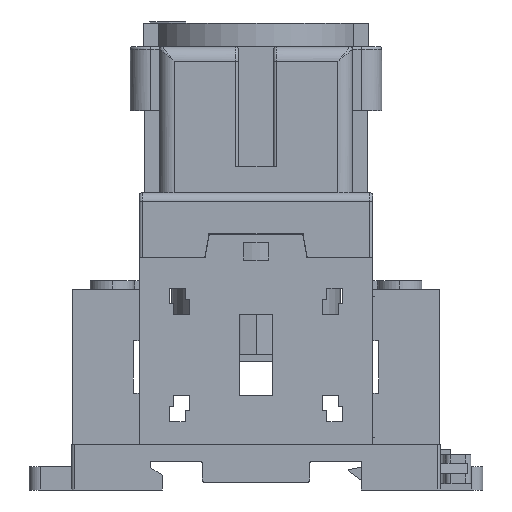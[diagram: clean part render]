
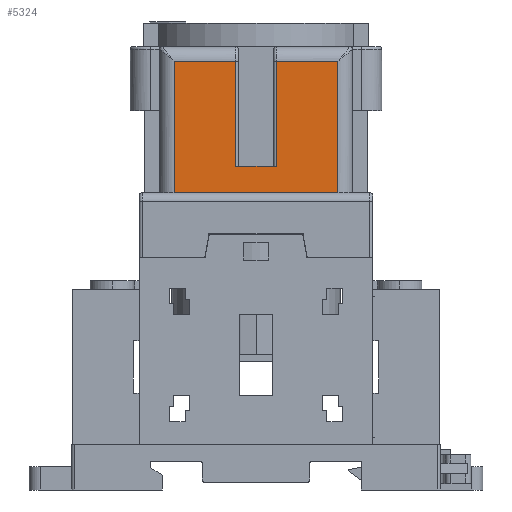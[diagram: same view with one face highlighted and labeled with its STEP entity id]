
A CAD part, left-side view. The second image highlights one B-rep face of the part: STEP entity #5324.
In plain terms, the highlighted planar face has unit normal (-1, 0, 0).
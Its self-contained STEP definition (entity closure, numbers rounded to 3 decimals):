
#57=DIRECTION('',(0.,-1.,0.));
#58=VECTOR('',#57,28.);
#59=CARTESIAN_POINT('',(-45.,14.,0.));
#60=LINE('',#59,#58);
#287=DIRECTION('',(0.,1.,0.));
#288=VECTOR('',#287,7.);
#289=CARTESIAN_POINT('',(-45.,-3.5,4.5));
#290=LINE('',#289,#288);
#381=CARTESIAN_POINT('',(-45.,14.,22.5));
#383=DIRECTION('',(0.,0.,-1.));
#384=VECTOR('',#383,22.5);
#385=CARTESIAN_POINT('',(-45.,14.,22.5));
#386=LINE('',#385,#384);
#387=DIRECTION('',(0.,-1.,0.));
#388=VECTOR('',#387,10.5);
#389=CARTESIAN_POINT('',(-45.,14.,22.5));
#390=LINE('',#389,#388);
#391=DIRECTION('',(0.,0.,-1.));
#392=VECTOR('',#391,18.);
#393=CARTESIAN_POINT('',(-45.,3.5,22.5));
#394=LINE('',#393,#392);
#395=DIRECTION('',(0.,0.,1.));
#396=VECTOR('',#395,18.);
#397=CARTESIAN_POINT('',(-45.,-3.5,4.5));
#398=LINE('',#397,#396);
#399=DIRECTION('',(0.,-1.,0.));
#400=VECTOR('',#399,10.5);
#401=CARTESIAN_POINT('',(-45.,-3.5,22.5));
#402=LINE('',#401,#400);
#403=DIRECTION('',(0.,0.,-1.));
#404=VECTOR('',#403,22.5);
#405=CARTESIAN_POINT('',(-45.,-14.,22.5));
#406=LINE('',#405,#404);
#3922=CARTESIAN_POINT('',(-45.,14.,0.));
#3924=VERTEX_POINT('',#3922);
#3927=CARTESIAN_POINT('',(-45.,-14.,0.));
#3929=VERTEX_POINT('',#3927);
#3950=CARTESIAN_POINT('',(-45.,3.5,22.5));
#3951=CARTESIAN_POINT('',(-45.,3.5,4.5));
#3952=VERTEX_POINT('',#3950);
#3953=VERTEX_POINT('',#3951);
#3964=CARTESIAN_POINT('',(-45.,-3.5,4.5));
#3966=VERTEX_POINT('',#3964);
#4027=VERTEX_POINT('',#381);
#4108=CARTESIAN_POINT('',(-45.,-14.,
22.5));
#4109=VERTEX_POINT('',#4108);
#4112=CARTESIAN_POINT('',(-45.,-3.5,22.5));
#4113=VERTEX_POINT('',#4112);
#5306=CARTESIAN_POINT('',(-45.,16.5,0.));
#5307=DIRECTION('',(-1.,0.,0.));
#5308=DIRECTION('',(0.,-1.,0.));
#5309=AXIS2_PLACEMENT_3D('',#5306,#5307,#5308);
#5310=PLANE('',#5309);
#5311=ORIENTED_EDGE('',*,*,#5298,.F.);
#5312=ORIENTED_EDGE('',*,*,#5230,.T.);
#5314=ORIENTED_EDGE('',*,*,#5313,.T.);
#5315=ORIENTED_EDGE('',*,*,#5155,.F.);
#5317=ORIENTED_EDGE('',*,*,#5316,.T.);
#5318=ORIENTED_EDGE('',*,*,#5224,.T.);
#5320=ORIENTED_EDGE('',*,*,#5319,.T.);
#5321=ORIENTED_EDGE('',*,*,#4853,.F.);
#5322=EDGE_LOOP('',(#5311,#5312,#5314,#5315,#5317,#5318,#5320,#5321));
#5323=FACE_OUTER_BOUND('',#5322,.F.);
#5324=ADVANCED_FACE('',(#5323),#5310,.T.);
#4853=EDGE_CURVE('',#3924,#3929,#60,.T.);
#5155=EDGE_CURVE('',#3966,#3953,#290,.T.);
#5224=EDGE_CURVE('',#4113,#4109,#402,.T.);
#5230=EDGE_CURVE('',#4027,#3952,#390,.T.);
#5298=EDGE_CURVE('',#4027,#3924,#386,.T.);
#5313=EDGE_CURVE('',#3952,#3953,#394,.T.);
#5316=EDGE_CURVE('',#3966,#4113,#398,.T.);
#5319=EDGE_CURVE('',#4109,#3929,#406,.T.);
